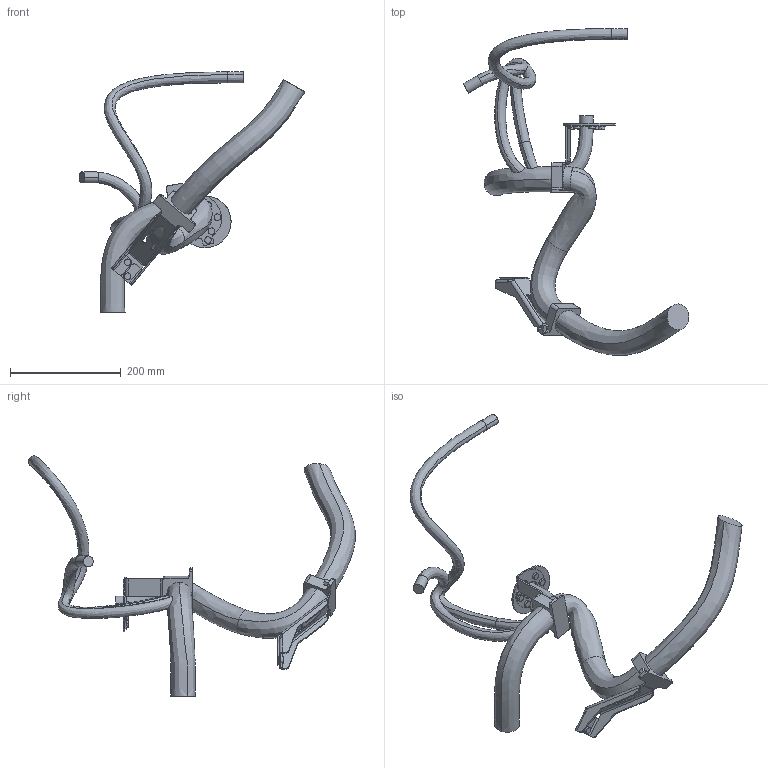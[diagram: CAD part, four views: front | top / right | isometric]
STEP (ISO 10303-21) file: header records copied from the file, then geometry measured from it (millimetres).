
FILE_DESCRIPTION (( 'STEP AP214' ), '1' );
FILE_NAME ('IRB6720_160kg-320_OC_00_LINK01m_CABLE.step', '2026-06-10T10:40:16', ( '' ), ( '' ), 'SwSTEP 2.0', 'SolidWorks 2024', '' );
FILE_SCHEMA (( 'AUTOMOTIVE_DESIGN' ));
Length unit declared in the file: millimetre
Products named in the file (1): IRB6720_160kg-320_OC_00_LINK01m_CABLE
Bounding box: 408.06 x 591.17 x 434.33 mm (x, y, z)
Volume: 1998901.4 mm3; surface area: 267591.9 mm2
Topology: 1 solids, 1 shells, 279 faces, 725 edges, 459 vertices
Faces by surface type: plane 149, cylinder 107, bspline 23
Entity records: 17133 total; most frequent: CARTESIAN_POINT 10361, ORIENTED_EDGE 1450, DIRECTION 1374, EDGE_CURVE 725, AXIS2_PLACEMENT_3D 480, VERTEX_POINT 459, LINE 414, VECTOR 414
